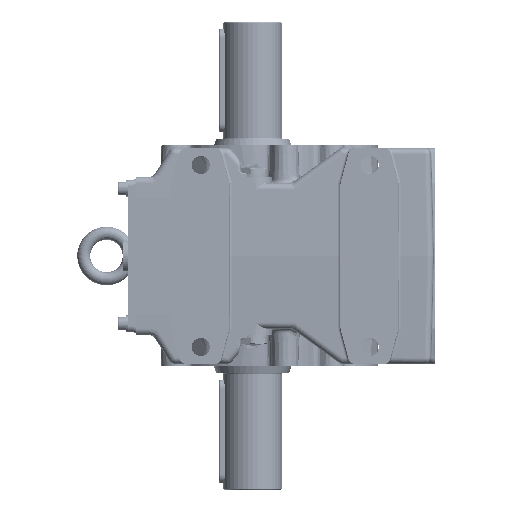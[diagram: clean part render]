
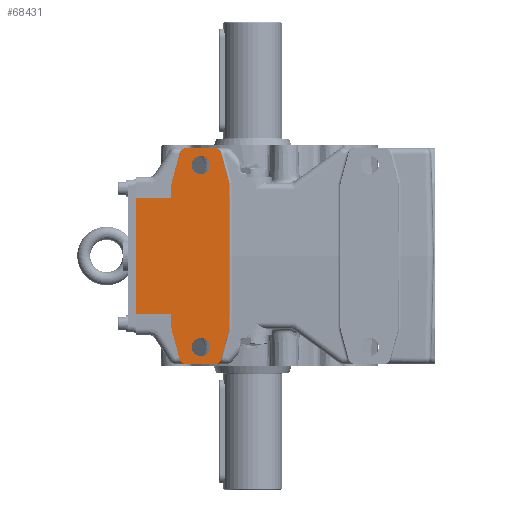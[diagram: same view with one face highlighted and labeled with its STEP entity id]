
A CAD part, left-side view. The second image highlights one B-rep face of the part: STEP entity #68431.
In plain terms, the highlighted planar face has unit normal (-1, 0, 0).
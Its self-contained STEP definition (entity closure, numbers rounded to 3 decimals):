
#25024=CARTESIAN_POINT('',(-90.,24.256,-79.297));
#25025=VERTEX_POINT('',#25024);
#25026=CARTESIAN_POINT('',(-90.,29.085,-83.));
#25027=VERTEX_POINT('',#25026);
#25028=CARTESIAN_POINT('',(-90.,29.085,-78.));
#25029=DIRECTION('',(1.0,0.0,0.0));
#25030=DIRECTION('',(0.0,-0.609,-0.794));
#25031=AXIS2_PLACEMENT_3D('',#25028,#25029,#25030);
#25032=CIRCLE('',#25031,5.0);
#25033=EDGE_CURVE('',#25025,#25027,#25032,.T.);
#25064=CARTESIAN_POINT('',(-90.,51.415,-83.));
#25065=VERTEX_POINT('',#25064);
#25066=CARTESIAN_POINT('',(-90.,29.085,-83.));
#25067=DIRECTION('',(0.0,1.0,0.0));
#25068=VECTOR('',#25067,22.331);
#25069=LINE('',#25066,#25068);
#25070=EDGE_CURVE('',#25027,#25065,#25069,.T.);
#25735=CARTESIAN_POINT('',(-90.,18.171,-56.637));
#25736=VERTEX_POINT('',#25735);
#25737=CARTESIAN_POINT('',(-90.0,18.171,-56.637));
#25738=DIRECTION('',(0.0,0.259,-0.966));
#25739=VECTOR('',#25738,23.462);
#25740=LINE('',#25737,#25739);
#25741=EDGE_CURVE('',#25736,#25025,#25740,.T.);
#25775=CARTESIAN_POINT('',(-90.,18.,-55.34));
#25776=VERTEX_POINT('',#25775);
#25777=CARTESIAN_POINT('',(-90.,23.,-55.34));
#25778=DIRECTION('',(1.0,0.0,0.0));
#25779=DIRECTION('',(0.0,-0.991,-0.131));
#25780=AXIS2_PLACEMENT_3D('',#25777,#25778,#25779);
#25781=CIRCLE('',#25780,5.0);
#25782=EDGE_CURVE('',#25776,#25736,#25781,.T.);
#25808=CARTESIAN_POINT('',(-90.,18.,-17.838));
#25809=VERTEX_POINT('',#25808);
#25810=CARTESIAN_POINT('',(-90.0,18.,-17.838));
#25811=DIRECTION('',(0.0,0.0,-1.0));
#25812=VECTOR('',#25811,37.503);
#25813=LINE('',#25810,#25812);
#25814=EDGE_CURVE('',#25809,#25776,#25813,.T.);
#25831=CARTESIAN_POINT('',(-90.,18.171,56.637));
#25832=VERTEX_POINT('',#25831);
#25833=CARTESIAN_POINT('',(-90.,18.,55.34));
#25834=VERTEX_POINT('',#25833);
#25835=CARTESIAN_POINT('',(-90.,23.,55.34));
#25836=DIRECTION('',(1.0,0.0,0.0));
#25837=DIRECTION('',(0.0,-0.991,0.131));
#25838=AXIS2_PLACEMENT_3D('',#25835,#25836,#25837);
#25839=CIRCLE('',#25838,5.0);
#25840=EDGE_CURVE('',#25832,#25834,#25839,.T.);
#29670=CARTESIAN_POINT('',(-90.,24.256,79.297));
#29671=VERTEX_POINT('',#29670);
#29672=CARTESIAN_POINT('',(-90.0,24.256,79.297));
#29673=DIRECTION('',(0.0,-0.259,-0.966));
#29674=VECTOR('',#29673,23.462);
#29675=LINE('',#29672,#29674);
#29676=EDGE_CURVE('',#29671,#25832,#29675,.T.);
#29903=CARTESIAN_POINT('',(-90.,17.945,0.));
#29904=VERTEX_POINT('',#29903);
#29905=CARTESIAN_POINT('',(-90.,16.,-17.838));
#29906=DIRECTION('',(-1.0,0.0,0.0));
#29907=DIRECTION('',(0.0,0.0,1.0));
#29908=AXIS2_PLACEMENT_3D('',#29905,#29906,#29907);
#29909=ELLIPSE('',#29908,76.403,2.0);
#29910=EDGE_CURVE('',#29904,#25809,#29909,.T.);
#30038=CARTESIAN_POINT('',(-90.,18.,17.838));
#30039=VERTEX_POINT('',#30038);
#30040=CARTESIAN_POINT('',(-90.,16.,17.838));
#30041=DIRECTION('',(-1.0,0.0,0.0));
#30042=DIRECTION('',(0.0,0.0,-1.0));
#30043=AXIS2_PLACEMENT_3D('',#30040,#30041,#30042);
#30044=ELLIPSE('',#30043,76.403,2.0);
#30045=EDGE_CURVE('',#30039,#29904,#30044,.T.);
#50075=CARTESIAN_POINT('',(-90.,56.244,-79.297));
#50076=VERTEX_POINT('',#50075);
#50077=CARTESIAN_POINT('',(-90.,62.329,-56.637));
#50078=VERTEX_POINT('',#50077);
#50079=CARTESIAN_POINT('',(-90.,56.244,-79.297));
#50080=DIRECTION('',(0.0,0.259,0.966));
#50081=VECTOR('',#50080,23.462);
#50082=LINE('',#50079,#50081);
#50083=EDGE_CURVE('',#50076,#50078,#50082,.T.);
#50114=CARTESIAN_POINT('',(-90.,51.415,-78.));
#50115=DIRECTION('',(1.0,0.0,0.0));
#50116=DIRECTION('',(0.0,0.609,-0.794));
#50117=AXIS2_PLACEMENT_3D('',#50114,#50115,#50116);
#50118=CIRCLE('',#50117,5.);
#50119=EDGE_CURVE('',#25065,#50076,#50118,.T.);
#67742=CARTESIAN_POINT('',(-90.,29.085,83.));
#67743=VERTEX_POINT('',#67742);
#67744=CARTESIAN_POINT('',(-90.,29.085,78.));
#67745=DIRECTION('',(1.0,0.0,0.0));
#67746=DIRECTION('',(0.0,-0.609,0.794));
#67747=AXIS2_PLACEMENT_3D('',#67744,#67745,#67746);
#67748=CIRCLE('',#67747,5.0);
#67749=EDGE_CURVE('',#67743,#29671,#67748,.T.);
#67767=CARTESIAN_POINT('',(-90.,51.415,83.));
#67768=VERTEX_POINT('',#67767);
#67769=CARTESIAN_POINT('',(-90.,51.415,83.));
#67770=DIRECTION('',(0.0,-1.0,0.0));
#67771=VECTOR('',#67770,22.331);
#67772=LINE('',#67769,#67771);
#67773=EDGE_CURVE('',#67768,#67743,#67772,.T.);
#67795=CARTESIAN_POINT('',(-90.0,18.,55.34));
#67796=DIRECTION('',(0.0,0.0,-1.0));
#67797=VECTOR('',#67796,37.503);
#67798=LINE('',#67795,#67797);
#67799=EDGE_CURVE('',#25834,#30039,#67798,.T.);
#67811=CARTESIAN_POINT('',(-90.,56.244,79.297));
#67812=VERTEX_POINT('',#67811);
#67813=CARTESIAN_POINT('',(-90.,51.415,78.));
#67814=DIRECTION('',(1.0,0.0,0.0));
#67815=DIRECTION('',(0.0,0.609,0.794));
#67816=AXIS2_PLACEMENT_3D('',#67813,#67814,#67815);
#67817=CIRCLE('',#67816,5.);
#67818=EDGE_CURVE('',#67812,#67768,#67817,.T.);
#67836=CARTESIAN_POINT('',(-90.,62.329,56.637));
#67837=VERTEX_POINT('',#67836);
#67838=CARTESIAN_POINT('',(-90.,62.329,56.637));
#67839=DIRECTION('',(0.0,-0.259,0.966));
#67840=VECTOR('',#67839,23.462);
#67841=LINE('',#67838,#67840);
#67842=EDGE_CURVE('',#67837,#67812,#67841,.T.);
#67868=CARTESIAN_POINT('',(-90.,62.5,55.34));
#67869=VERTEX_POINT('',#67868);
#67870=CARTESIAN_POINT('',(-90.,57.5,55.34));
#67871=DIRECTION('',(1.0,0.0,0.0));
#67872=DIRECTION('',(0.0,0.991,0.131));
#67873=AXIS2_PLACEMENT_3D('',#67870,#67871,#67872);
#67874=CIRCLE('',#67873,5.0);
#67875=EDGE_CURVE('',#67869,#67837,#67874,.T.);
#67901=CARTESIAN_POINT('',(-90.,62.5,-55.34));
#67902=VERTEX_POINT('',#67901);
#67903=CARTESIAN_POINT('',(-90.,62.5,-44.812));
#67904=VERTEX_POINT('',#67903);
#67905=CARTESIAN_POINT('',(-90.,62.5,-55.34));
#67906=DIRECTION('',(0.0,0.0,1.0));
#67907=VECTOR('',#67906,10.529);
#67908=LINE('',#67905,#67907);
#67909=EDGE_CURVE('',#67902,#67904,#67908,.T.);
#67933=CARTESIAN_POINT('',(-90.,62.5,44.812));
#67934=VERTEX_POINT('',#67933);
#67935=CARTESIAN_POINT('',(-90.,62.5,44.812));
#67936=DIRECTION('',(0.0,0.0,1.0));
#67937=VECTOR('',#67936,10.529);
#67938=LINE('',#67935,#67937);
#67939=EDGE_CURVE('',#67934,#67869,#67938,.T.);
#67956=CARTESIAN_POINT('',(-90.0,90.0,44.812));
#67957=VERTEX_POINT('',#67956);
#67964=CARTESIAN_POINT('',(-90.0,90.0,44.812));
#67965=DIRECTION('',(0.0,-1.0,0.0));
#67966=VECTOR('',#67965,27.5);
#67967=LINE('',#67964,#67966);
#67968=EDGE_CURVE('',#67957,#67934,#67967,.T.);
#67985=CARTESIAN_POINT('',(-90.0,90.0,-44.812));
#67986=VERTEX_POINT('',#67985);
#68013=CARTESIAN_POINT('',(-90.0,62.5,-44.812));
#68014=DIRECTION('',(0.0,1.0,0.0));
#68015=VECTOR('',#68014,27.5);
#68016=LINE('',#68013,#68015);
#68017=EDGE_CURVE('',#67904,#67986,#68016,.T.);
#68027=CARTESIAN_POINT('',(-90.,57.5,-55.34));
#68028=DIRECTION('',(1.0,0.0,0.0));
#68029=DIRECTION('',(0.0,0.991,-0.131));
#68030=AXIS2_PLACEMENT_3D('',#68027,#68028,#68029);
#68031=CIRCLE('',#68030,5.);
#68032=EDGE_CURVE('',#50078,#67902,#68031,.T.);
#68374=CARTESIAN_POINT('',(-90.,-15.242,0.735));
#68375=DIRECTION('',(1.0,0.0,0.0));
#68376=DIRECTION('',(0.0,0.0,-1.0));
#68377=AXIS2_PLACEMENT_3D('',#68374,#68375,#68376);
#68378=PLANE('',#68377);
#68379=CARTESIAN_POINT('',(-90.,90.0,44.812));
#68380=DIRECTION('',(0.0,0.0,-1.0));
#68381=VECTOR('',#68380,89.623);
#68382=LINE('',#68379,#68381);
#68383=EDGE_CURVE('',#67957,#67986,#68382,.T.);
#68384=ORIENTED_EDGE('',*,*,#68383,.T.);
#68385=ORIENTED_EDGE('',*,*,#68017,.F.);
#68386=ORIENTED_EDGE('',*,*,#67909,.F.);
#68387=ORIENTED_EDGE('',*,*,#68032,.F.);
#68388=ORIENTED_EDGE('',*,*,#50083,.F.);
#68389=ORIENTED_EDGE('',*,*,#50119,.F.);
#68390=ORIENTED_EDGE('',*,*,#25070,.F.);
#68391=ORIENTED_EDGE('',*,*,#25033,.F.);
#68392=ORIENTED_EDGE('',*,*,#25741,.F.);
#68393=ORIENTED_EDGE('',*,*,#25782,.F.);
#68394=ORIENTED_EDGE('',*,*,#25814,.F.);
#68395=ORIENTED_EDGE('',*,*,#29910,.F.);
#68396=ORIENTED_EDGE('',*,*,#30045,.F.);
#68397=ORIENTED_EDGE('',*,*,#67799,.F.);
#68398=ORIENTED_EDGE('',*,*,#25840,.F.);
#68399=ORIENTED_EDGE('',*,*,#29676,.F.);
#68400=ORIENTED_EDGE('',*,*,#67749,.F.);
#68401=ORIENTED_EDGE('',*,*,#67773,.F.);
#68402=ORIENTED_EDGE('',*,*,#67818,.F.);
#68403=ORIENTED_EDGE('',*,*,#67842,.F.);
#68404=ORIENTED_EDGE('',*,*,#67875,.F.);
#68405=ORIENTED_EDGE('',*,*,#67939,.F.);
#68406=ORIENTED_EDGE('',*,*,#67968,.F.);
#68407=EDGE_LOOP('',(#68384,#68385,#68386,#68387,#68388,#68389,#68390,#68391,#68392,#68393,#68394,#68395,#68396,#68397,#68398,#68399,#68400,#68401,#68402,#68403,#68404,#68405,#68406));
#68408=FACE_OUTER_BOUND('',#68407,.T.);
#68409=CARTESIAN_POINT('',(-90.,40.0,-63.0));
#68410=VERTEX_POINT('',#68409);
#68411=CARTESIAN_POINT('',(-90.,40.0,-70.0));
#68412=DIRECTION('',(1.0,0.0,0.0));
#68413=DIRECTION('',(0.0,0.0,1.0));
#68414=AXIS2_PLACEMENT_3D('',#68411,#68412,#68413);
#68415=CIRCLE('',#68414,7.);
#68416=EDGE_CURVE('',#68410,#68410,#68415,.T.);
#68417=ORIENTED_EDGE('',*,*,#68416,.T.);
#68418=EDGE_LOOP('',(#68417));
#68419=FACE_BOUND('',#68418,.T.);
#68420=CARTESIAN_POINT('',(-90.,40.0,77.0));
#68421=VERTEX_POINT('',#68420);
#68422=CARTESIAN_POINT('',(-90.,40.0,70.0));
#68423=DIRECTION('',(1.0,0.0,0.0));
#68424=DIRECTION('',(0.0,0.0,1.0));
#68425=AXIS2_PLACEMENT_3D('',#68422,#68423,#68424);
#68426=CIRCLE('',#68425,7.);
#68427=EDGE_CURVE('',#68421,#68421,#68426,.T.);
#68428=ORIENTED_EDGE('',*,*,#68427,.T.);
#68429=EDGE_LOOP('',(#68428));
#68430=FACE_BOUND('',#68429,.T.);
#68431=ADVANCED_FACE('',(#68408,#68419,#68430),#68378,.F.);
